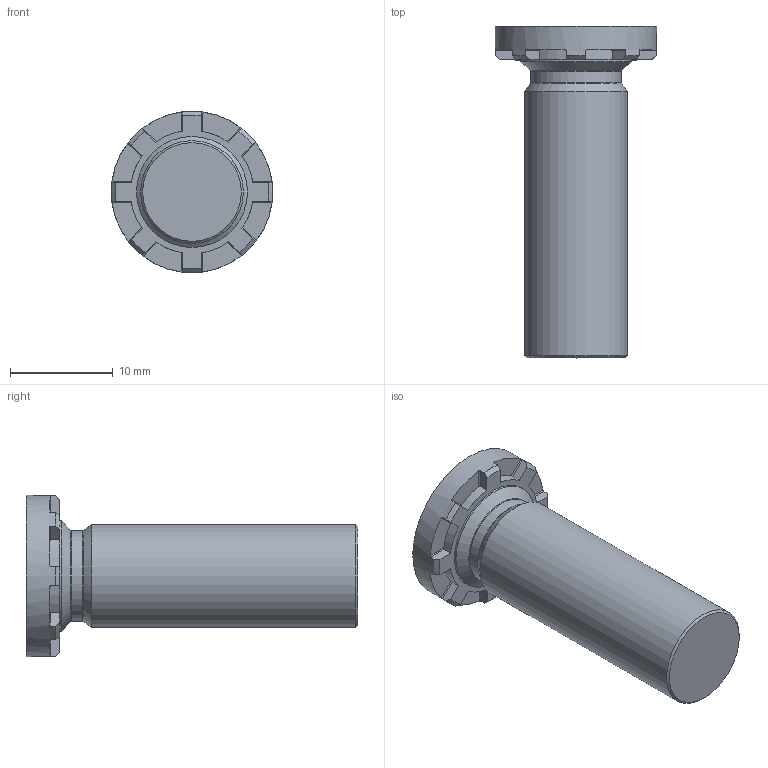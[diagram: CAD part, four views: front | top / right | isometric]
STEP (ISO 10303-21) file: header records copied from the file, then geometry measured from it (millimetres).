
FILE_DESCRIPTION(/* description */ (''),/* implementation_level */ '2;1');
FILE_NAME(/* name */ 'C:\Users\keval.kumar\Desktop\Fastit\Clinch Screw- HFH Range\M10\Clinch Screw-HFH Range_M10x30.stp',/* time_stamp */ '2024-03-12T15:12:01+06:00',/* author */ ('keval.kumar'),/* organization */ (''),/* preprocessor_version */ 'ST-DEVELOPER v18.1',/* originating_system */ 'Autodesk Inventor 2022',/* authorisation */ '');
FILE_SCHEMA (('AUTOMOTIVE_DESIGN { 1 0 10303 214 3 1 1 }'));
Length unit declared in the file: millimetre
Products named in the file (1): Clinch Screw-HFH Range_M10x30
Bounding box: 15.7 x 32.29 x 15.7 mm (x, y, z)
Volume: 2831.1 mm3; surface area: 1468.9 mm2
Topology: 1 solids, 1 shells, 68 faces, 193 edges, 128 vertices
Faces by surface type: plane 43, cylinder 12, cone 11, torus 2
Full cylindrical faces by diameter (mm): 8.8 x1, 10 x1, 10.8 x1, 15.7 x1
Entity records: 2278 total; most frequent: CARTESIAN_POINT 422, DIRECTION 405, ORIENTED_EDGE 386, EDGE_CURVE 193, AXIS2_PLACEMENT_3D 159, VERTEX_POINT 128, LINE 87, VECTOR 87
